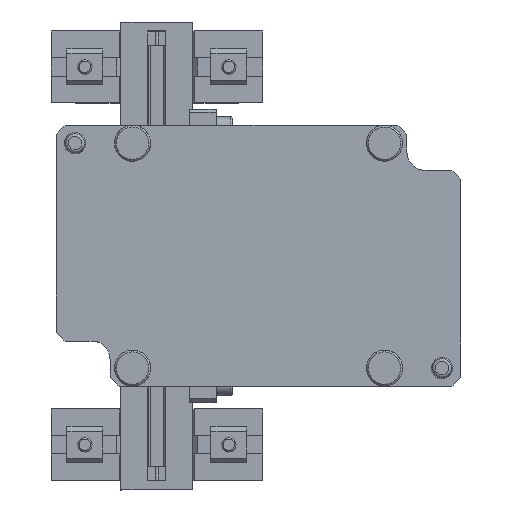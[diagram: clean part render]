
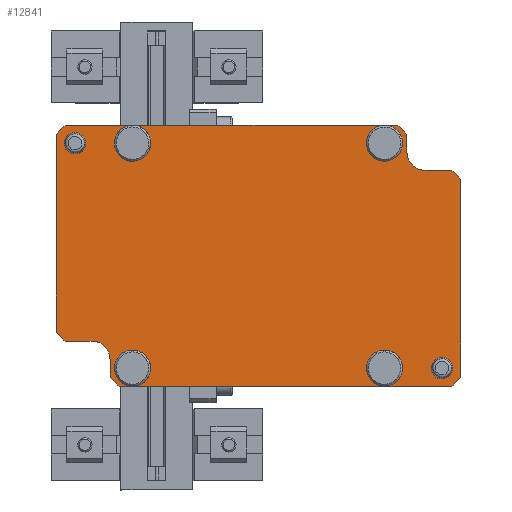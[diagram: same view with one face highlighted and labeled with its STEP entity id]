
A CAD part, top view. The second image highlights one B-rep face of the part: STEP entity #12841.
In plain terms, the highlighted planar face has unit normal (0, 0, 1).
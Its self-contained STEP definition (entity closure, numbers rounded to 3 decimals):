
#877=FACE_BOUND('',#2709,.T.);
#878=FACE_BOUND('',#2710,.T.);
#1182=CIRCLE('',#13785,10.);
#1183=CIRCLE('',#13787,10.);
#1184=CIRCLE('',#13788,10.);
#1185=CIRCLE('',#13789,10.);
#1186=CIRCLE('',#13790,10.);
#1187=CIRCLE('',#13791,10.);
#1188=CIRCLE('',#13792,6.);
#1189=CIRCLE('',#13793,6.);
#1931=FACE_OUTER_BOUND('',#2708,.T.);
#2708=EDGE_LOOP('',(#11635,#11636,#11637,#11638,#11639,#11640,#11641,#11642,
#11643,#11644,#11645,#11646,#11647,#11648,#11649,#11650,#11651,#11652,#11653,
#11654,#11655,#11656,#11657,#11658));
#2709=EDGE_LOOP('',(#11659));
#2710=EDGE_LOOP('',(#11660));
#4076=LINE('',#20625,#5432);
#4077=LINE('',#20627,#5433);
#4078=LINE('',#20631,#5434);
#4079=LINE('',#20633,#5435);
#4080=LINE('',#20635,#5436);
#4081=LINE('',#20638,#5437);
#4082=LINE('',#20641,#5438);
#4083=LINE('',#20643,#5439);
#4084=LINE('',#20645,#5440);
#4085=LINE('',#20647,#5441);
#4086=LINE('',#20649,#5442);
#4087=LINE('',#20653,#5443);
#4088=LINE('',#20655,#5444);
#4089=LINE('',#20656,#5445);
#4090=LINE('',#20658,#5446);
#4091=LINE('',#20661,#5447);
#4092=LINE('',#20663,#5448);
#4093=LINE('',#20664,#5449);
#5432=VECTOR('',#16970,7.071);
#5433=VECTOR('',#16971,15.);
#5434=VECTOR('',#16974,10.);
#5435=VECTOR('',#16975,7.071);
#5436=VECTOR('',#16976,7.5);
#5437=VECTOR('',#16979,140.);
#5438=VECTOR('',#16982,37.5);
#5439=VECTOR('',#16983,7.071);
#5440=VECTOR('',#16984,110.);
#5441=VECTOR('',#16985,7.071);
#5442=VECTOR('',#16986,15.);
#5443=VECTOR('',#16989,10.);
#5444=VECTOR('',#16990,7.071);
#5445=VECTOR('',#16991,7.5);
#5446=VECTOR('',#16992,140.);
#5447=VECTOR('',#16995,37.5);
#5448=VECTOR('',#16996,7.071);
#5449=VECTOR('',#16997,110.);
#6598=VERTEX_POINT('',#20620);
#6599=VERTEX_POINT('',#20623);
#6600=VERTEX_POINT('',#20624);
#6601=VERTEX_POINT('',#20626);
#6602=VERTEX_POINT('',#20628);
#6603=VERTEX_POINT('',#20630);
#6604=VERTEX_POINT('',#20632);
#6605=VERTEX_POINT('',#20634);
#6606=VERTEX_POINT('',#20637);
#6607=VERTEX_POINT('',#20640);
#6608=VERTEX_POINT('',#20642);
#6609=VERTEX_POINT('',#20644);
#6610=VERTEX_POINT('',#20646);
#6611=VERTEX_POINT('',#20648);
#6612=VERTEX_POINT('',#20650);
#6613=VERTEX_POINT('',#20652);
#6614=VERTEX_POINT('',#20654);
#6615=VERTEX_POINT('',#20657);
#6616=VERTEX_POINT('',#20660);
#6617=VERTEX_POINT('',#20662);
#6618=VERTEX_POINT('',#20665);
#6619=VERTEX_POINT('',#20667);
#8292=EDGE_CURVE('',#6598,#6598,#1182,.T.);
#8293=EDGE_CURVE('',#6599,#6600,#4076,.T.);
#8294=EDGE_CURVE('',#6599,#6601,#4077,.T.);
#8295=EDGE_CURVE('',#6601,#6602,#1183,.T.);
#8296=EDGE_CURVE('',#6602,#6603,#4078,.T.);
#8297=EDGE_CURVE('',#6604,#6603,#4079,.T.);
#8298=EDGE_CURVE('',#6604,#6605,#4080,.T.);
#8299=EDGE_CURVE('',#6605,#6605,#1184,.T.);
#8300=EDGE_CURVE('',#6605,#6606,#4081,.T.);
#8301=EDGE_CURVE('',#6606,#6606,#1185,.T.);
#8302=EDGE_CURVE('',#6606,#6607,#4082,.T.);
#8303=EDGE_CURVE('',#6608,#6607,#4083,.T.);
#8304=EDGE_CURVE('',#6608,#6609,#4084,.T.);
#8305=EDGE_CURVE('',#6610,#6609,#4085,.T.);
#8306=EDGE_CURVE('',#6610,#6611,#4086,.T.);
#8307=EDGE_CURVE('',#6611,#6612,#1186,.T.);
#8308=EDGE_CURVE('',#6612,#6613,#4087,.T.);
#8309=EDGE_CURVE('',#6614,#6613,#4088,.T.);
#8310=EDGE_CURVE('',#6614,#6598,#4089,.T.);
#8311=EDGE_CURVE('',#6598,#6615,#4090,.T.);
#8312=EDGE_CURVE('',#6615,#6615,#1187,.T.);
#8313=EDGE_CURVE('',#6615,#6616,#4091,.T.);
#8314=EDGE_CURVE('',#6617,#6616,#4092,.T.);
#8315=EDGE_CURVE('',#6617,#6600,#4093,.T.);
#8316=EDGE_CURVE('',#6618,#6618,#1188,.T.);
#8317=EDGE_CURVE('',#6619,#6619,#1189,.T.);
#11635=ORIENTED_EDGE('',*,*,#8293,.F.);
#11636=ORIENTED_EDGE('',*,*,#8294,.T.);
#11637=ORIENTED_EDGE('',*,*,#8295,.T.);
#11638=ORIENTED_EDGE('',*,*,#8296,.T.);
#11639=ORIENTED_EDGE('',*,*,#8297,.F.);
#11640=ORIENTED_EDGE('',*,*,#8298,.T.);
#11641=ORIENTED_EDGE('',*,*,#8299,.T.);
#11642=ORIENTED_EDGE('',*,*,#8300,.T.);
#11643=ORIENTED_EDGE('',*,*,#8301,.T.);
#11644=ORIENTED_EDGE('',*,*,#8302,.T.);
#11645=ORIENTED_EDGE('',*,*,#8303,.F.);
#11646=ORIENTED_EDGE('',*,*,#8304,.T.);
#11647=ORIENTED_EDGE('',*,*,#8305,.F.);
#11648=ORIENTED_EDGE('',*,*,#8306,.T.);
#11649=ORIENTED_EDGE('',*,*,#8307,.T.);
#11650=ORIENTED_EDGE('',*,*,#8308,.T.);
#11651=ORIENTED_EDGE('',*,*,#8309,.F.);
#11652=ORIENTED_EDGE('',*,*,#8310,.T.);
#11653=ORIENTED_EDGE('',*,*,#8292,.T.);
#11654=ORIENTED_EDGE('',*,*,#8311,.T.);
#11655=ORIENTED_EDGE('',*,*,#8312,.T.);
#11656=ORIENTED_EDGE('',*,*,#8313,.T.);
#11657=ORIENTED_EDGE('',*,*,#8314,.F.);
#11658=ORIENTED_EDGE('',*,*,#8315,.T.);
#11659=ORIENTED_EDGE('',*,*,#8316,.T.);
#11660=ORIENTED_EDGE('',*,*,#8317,.T.);
#12225=PLANE('',#13786);
#12841=ADVANCED_FACE('',(#1931,#877,#878),#12225,.T.);
#13785=AXIS2_PLACEMENT_3D('',#20621,#16966,#16967);
#13786=AXIS2_PLACEMENT_3D('',#20622,#16968,#16969);
#13787=AXIS2_PLACEMENT_3D('',#20629,#16972,#16973);
#13788=AXIS2_PLACEMENT_3D('',#20636,#16977,#16978);
#13789=AXIS2_PLACEMENT_3D('',#20639,#16980,#16981);
#13790=AXIS2_PLACEMENT_3D('',#20651,#16987,#16988);
#13791=AXIS2_PLACEMENT_3D('',#20659,#16993,#16994);
#13792=AXIS2_PLACEMENT_3D('',#20666,#16998,#16999);
#13793=AXIS2_PLACEMENT_3D('',#20668,#17000,#17001);
#16966=DIRECTION('center_axis',(0.,0.,
-1.));
#16967=DIRECTION('ref_axis',(-0.536,-0.844,0.));
#16968=DIRECTION('center_axis',(0.,0.,
1.));
#16969=DIRECTION('ref_axis',(0.,-1.,0.));
#16970=DIRECTION('',(0.707,-0.707,0.));
#16971=DIRECTION('',(-1.,0.,0.));
#16972=DIRECTION('center_axis',(0.,0.,
-1.));
#16973=DIRECTION('ref_axis',(-1.,0.,0.));
#16974=DIRECTION('',(0.,1.,0.));
#16975=DIRECTION('',(0.707,-0.707,0.));
#16976=DIRECTION('',(-1.,0.,0.));
#16977=DIRECTION('center_axis',(0.,0.,
-1.));
#16978=DIRECTION('ref_axis',(0.997,-0.079,0.));
#16979=DIRECTION('',(-1.,0.,0.));
#16980=DIRECTION('center_axis',(0.,0.,
-1.));
#16981=DIRECTION('ref_axis',(-0.954,0.299,0.));
#16982=DIRECTION('',(-1.,0.,0.));
#16983=DIRECTION('',(0.707,0.707,0.));
#16984=DIRECTION('',(0.,-1.,0.));
#16985=DIRECTION('',(-0.707,0.707,0.));
#16986=DIRECTION('',(1.,0.,0.));
#16987=DIRECTION('center_axis',(0.,0.,
-1.));
#16988=DIRECTION('ref_axis',(-1.,0.,0.));
#16989=DIRECTION('',(0.,-1.,0.));
#16990=DIRECTION('',(-0.707,0.707,0.));
#16991=DIRECTION('',(1.,0.,0.));
#16992=DIRECTION('',(1.,0.,0.));
#16993=DIRECTION('center_axis',(0.,0.,
-1.));
#16994=DIRECTION('ref_axis',(0.302,-0.953,0.));
#16995=DIRECTION('',(1.,0.,0.));
#16996=DIRECTION('',(-0.707,-0.707,0.));
#16997=DIRECTION('',(0.,1.,0.));
#16998=DIRECTION('center_axis',(0.,0.,
-1.));
#16999=DIRECTION('ref_axis',(0.812,0.584,0.));
#17000=DIRECTION('center_axis',(0.,0.,
-1.));
#17001=DIRECTION('ref_axis',(0.693,-0.721,0.));
#20620=CARTESIAN_POINT('',(-70.,-72.5,76.975));
#20621=CARTESIAN_POINT('Origin',(-70.,-62.5,76.975));
#20622=CARTESIAN_POINT('Origin',(0.,0.,
76.975));
#20623=CARTESIAN_POINT('',(107.5,47.5,76.975));
#20624=CARTESIAN_POINT('',(112.5,42.5,76.975));
#20625=CARTESIAN_POINT('',(93.75,61.25,76.975));
#20626=CARTESIAN_POINT('',(92.5,47.5,76.975));
#20627=CARTESIAN_POINT('',(56.25,47.5,76.975));
#20628=CARTESIAN_POINT('',(82.5,57.5,76.975));
#20629=CARTESIAN_POINT('Origin',(92.5,57.5,76.975));
#20630=CARTESIAN_POINT('',(82.5,67.5,76.975));
#20631=CARTESIAN_POINT('',(82.5,28.75,76.975));
#20632=CARTESIAN_POINT('',(77.5,72.5,76.975));
#20633=CARTESIAN_POINT('',(77.5,72.5,76.975));
#20634=CARTESIAN_POINT('',(70.,72.5,76.975));
#20635=CARTESIAN_POINT('',(-112.5,72.5,76.975));
#20636=CARTESIAN_POINT('Origin',(70.,62.5,76.975));
#20637=CARTESIAN_POINT('',(-70.,72.5,76.975));
#20638=CARTESIAN_POINT('',(-112.5,72.5,76.975));
#20639=CARTESIAN_POINT('Origin',(-70.,62.5,76.975));
#20640=CARTESIAN_POINT('',(-107.5,72.5,76.975));
#20641=CARTESIAN_POINT('',(-112.5,72.5,76.975));
#20642=CARTESIAN_POINT('',(-112.5,67.5,76.975));
#20643=CARTESIAN_POINT('',(-100.,80.,76.975));
#20644=CARTESIAN_POINT('',(-112.5,-42.5,76.975));
#20645=CARTESIAN_POINT('',(-112.5,-72.5,76.975));
#20646=CARTESIAN_POINT('',(-107.5,-47.5,76.975));
#20647=CARTESIAN_POINT('',(-93.75,-61.25,76.975));
#20648=CARTESIAN_POINT('',(-92.5,-47.5,76.975));
#20649=CARTESIAN_POINT('',(-56.25,-47.5,76.975));
#20650=CARTESIAN_POINT('',(-82.5,-57.5,76.975));
#20651=CARTESIAN_POINT('Origin',(-92.5,-57.5,76.975));
#20652=CARTESIAN_POINT('',(-82.5,-67.5,76.975));
#20653=CARTESIAN_POINT('',(-82.5,-28.75,76.975));
#20654=CARTESIAN_POINT('',(-77.5,-72.5,76.975));
#20655=CARTESIAN_POINT('',(-77.5,-72.5,76.975));
#20656=CARTESIAN_POINT('',(112.5,-72.5,76.975));
#20657=CARTESIAN_POINT('',(70.,-72.5,76.975));
#20658=CARTESIAN_POINT('',(112.5,-72.5,76.975));
#20659=CARTESIAN_POINT('Origin',(70.,-62.5,76.975));
#20660=CARTESIAN_POINT('',(107.5,-72.5,76.975));
#20661=CARTESIAN_POINT('',(112.5,-72.5,76.975));
#20662=CARTESIAN_POINT('',(112.5,-67.5,76.975));
#20663=CARTESIAN_POINT('',(100.,-80.,76.975));
#20664=CARTESIAN_POINT('',(112.5,72.5,76.975));
#20665=CARTESIAN_POINT('',(106.872,-58.999,76.975));
#20666=CARTESIAN_POINT('Origin',(102.,-62.5,76.975));
#20667=CARTESIAN_POINT('',(-97.844,58.172,76.975));
#20668=CARTESIAN_POINT('Origin',(-102.,62.5,76.975));
